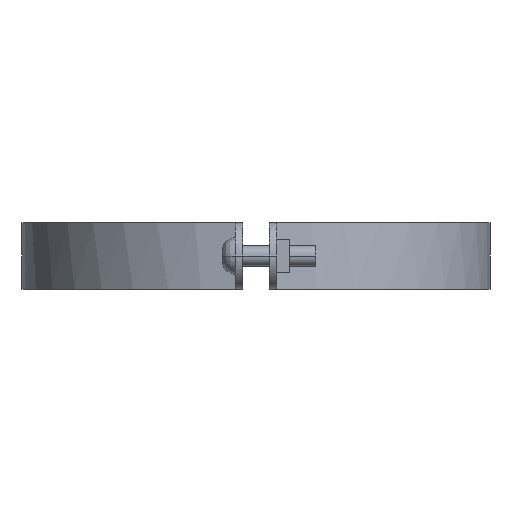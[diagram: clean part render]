
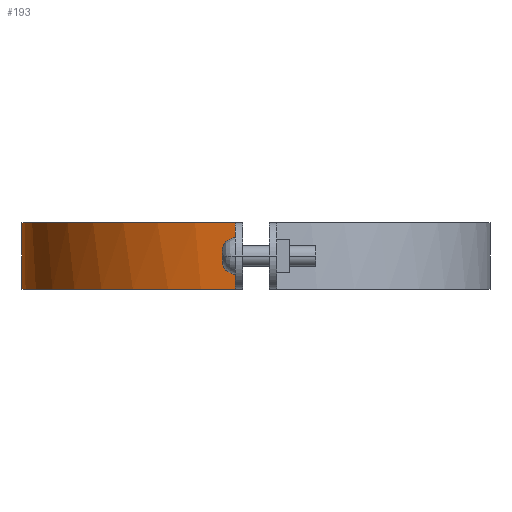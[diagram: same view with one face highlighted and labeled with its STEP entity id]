
A CAD part, left-side view. The second image highlights one B-rep face of the part: STEP entity #193.
In plain terms, the highlighted free-form (B-spline) face has degree [3, 1] with [4, 2] control points.
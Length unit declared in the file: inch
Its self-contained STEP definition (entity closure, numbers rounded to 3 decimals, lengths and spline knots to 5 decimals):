
#193=ADVANCED_FACE('',(#423),#424,.T.);
#423=FACE_OUTER_BOUND('',#815,.T.);
#424=B_SPLINE_SURFACE_WITH_KNOTS('',3,1,((#816,#817),(#818,#819),(#820,#821),(#822,#823)),.UNSPECIFIED.,.F.,.F.,.F.,(4,4),(2,2),(0.0,1.0),(0.0,1.25),.UNSPECIFIED.);
#815=EDGE_LOOP('',(#1529,#1530,#1531,#1532));
#816=CARTESIAN_POINT('',(5.06018,8.76414,0.0));
#817=CARTESIAN_POINT('',(5.06018,8.76414,1.25));
#818=CARTESIAN_POINT('',(2.78869,8.76414,0.0));
#819=CARTESIAN_POINT('',(2.78869,8.76414,1.25));
#820=CARTESIAN_POINT('',(0.89359,7.02872,0.0));
#821=CARTESIAN_POINT('',(0.89359,7.02872,1.25));
#822=CARTESIAN_POINT('',(0.69416,4.766,0.0));
#823=CARTESIAN_POINT('',(0.69416,4.766,1.25));
#1529=ORIENTED_EDGE('',*,*,#2087,.T.);
#1530=ORIENTED_EDGE('',*,*,#1989,.T.);
#1531=ORIENTED_EDGE('',*,*,#2088,.T.);
#1532=ORIENTED_EDGE('',*,*,#2089,.F.);
#1989=EDGE_CURVE('',#2246,#2253,#2255,.T.);
#2087=EDGE_CURVE('',#2425,#2246,#2426,.T.);
#2088=EDGE_CURVE('',#2253,#2427,#2428,.T.);
#2089=EDGE_CURVE('',#2425,#2427,#2429,.T.);
#2246=VERTEX_POINT('',#2631);
#2253=VERTEX_POINT('',#2645);
#2255=LINE('',#2648,#2649);
#2425=VERTEX_POINT('',#2955);
#2426=B_SPLINE_CURVE_WITH_KNOTS('',3,(#2956,#2957,#2958,#2959),.UNSPECIFIED.,.F.,.F.,(4,4),(0.0,1.0),.UNSPECIFIED.);
#2427=VERTEX_POINT('',#2960);
#2428=B_SPLINE_CURVE_WITH_KNOTS('',3,(#2961,#2962,#2963,#2964),.UNSPECIFIED.,.F.,.F.,(4,4),(-1.0,-0.0),.UNSPECIFIED.);
#2429=LINE('',#2965,#2966);
#2631=CARTESIAN_POINT('',(0.69416,4.766,0.00011));
#2645=CARTESIAN_POINT('',(0.69416,4.766,1.24992));
#2648=CARTESIAN_POINT('',(0.69416,4.766,0.0));
#2649=VECTOR('',#3367,1.0);
#2955=CARTESIAN_POINT('',(5.06018,8.76414,0.00011));
#2956=CARTESIAN_POINT('',(5.06018,8.76414,0.00011));
#2957=CARTESIAN_POINT('',(2.78869,8.76414,0.00011));
#2958=CARTESIAN_POINT('',(0.89359,7.02872,0.00011));
#2959=CARTESIAN_POINT('',(0.69416,4.766,0.00011));
#2960=CARTESIAN_POINT('',(5.06018,8.76414,1.24992));
#2961=CARTESIAN_POINT('',(0.69416,4.766,1.24992));
#2962=CARTESIAN_POINT('',(0.89359,7.02872,1.24992));
#2963=CARTESIAN_POINT('',(2.78869,8.76414,1.24992));
#2964=CARTESIAN_POINT('',(5.06018,8.76414,1.24992));
#2965=CARTESIAN_POINT('',(5.06018,8.76414,0.0));
#2966=VECTOR('',#3429,1.0);
#3367=DIRECTION('',(0.0,0.0,1.0));
#3429=DIRECTION('',(0.0,0.0,1.0));
